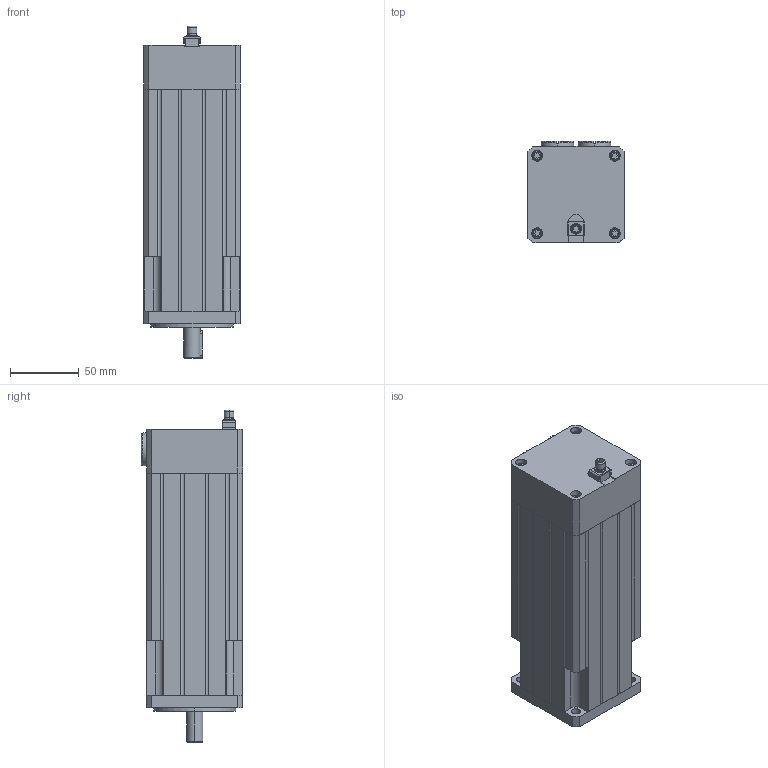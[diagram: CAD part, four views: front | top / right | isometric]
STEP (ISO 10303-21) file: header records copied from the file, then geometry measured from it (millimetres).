
FILE_DESCRIPTION (( 'STEP AP203' ), '1' );
FILE_NAME ('BTS070-02R2A2-EXD ZA.V1.STEP', '2023-03-08T02:04:29', ( 'Admin' ), ( '' ), 'SwSTEP 2.0', 'SolidWorks 2021', '' );
FILE_SCHEMA (( 'CONFIG_CONTROL_DESIGN' ));
Length unit declared in the file: millimetre
Products named in the file (1): BTS070-02R2A2-EXD  ZA.V1
Bounding box: 70 x 74 x 242 mm (x, y, z)
Volume: 957325.3 mm3; surface area: 100258.9 mm2
Topology: 21 solids, 21 shells, 459 faces, 1098 edges, 704 vertices
Faces by surface type: plane 228, cylinder 176, torus 30, cone 25
Entity records: 13384 total; most frequent: DIRECTION 2409, CARTESIAN_POINT 2332, ORIENTED_EDGE 2152, EDGE_CURVE 1076, AXIS2_PLACEMENT_3D 885, VERTEX_POINT 704, LINE 639, VECTOR 639
